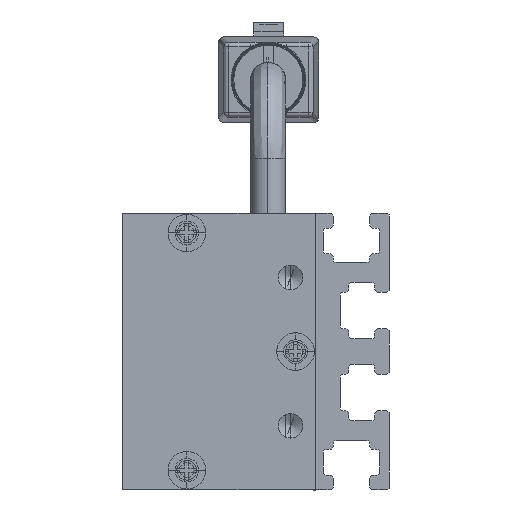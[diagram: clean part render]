
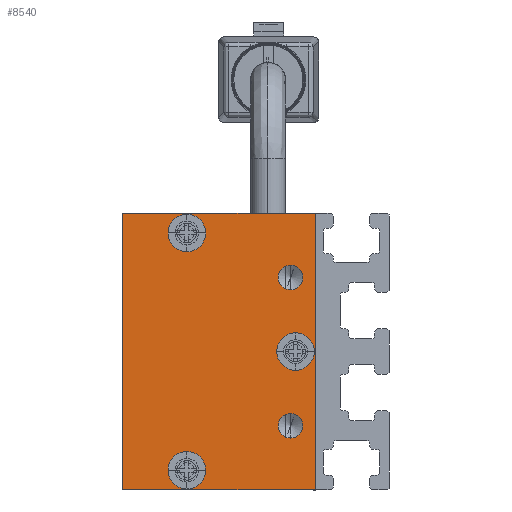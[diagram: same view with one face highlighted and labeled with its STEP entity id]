
A CAD part, left-side view. The second image highlights one B-rep face of the part: STEP entity #8540.
In plain terms, the highlighted planar face has unit normal (-1, 0, 0) as drawn and (0, 0, -1) by its records, which use the part's own axes.
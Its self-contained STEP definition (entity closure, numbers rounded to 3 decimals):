
#133 = FACE_OUTER_BOUND ( 'NONE', #5319, .T. ) ;
#634 = AXIS2_PLACEMENT_3D ( 'NONE', #1439, #4719, #6840 ) ;
#855 = EDGE_LOOP ( 'NONE', ( #13792, #3648 ) ) ;
#945 = ORIENTED_EDGE ( 'NONE', *, *, #8925, .F. ) ;
#1173 = DIRECTION ( 'NONE',  ( -1., 0., 0. ) ) ;
#1328 = DIRECTION ( 'NONE',  ( -1., 0., 0. ) ) ;
#1405 = ORIENTED_EDGE ( 'NONE', *, *, #2974, .F. ) ;
#1439 = CARTESIAN_POINT ( 'NONE',  ( -12., 13., -2.5 ) ) ;
#1611 = ORIENTED_EDGE ( 'NONE', *, *, #1929, .F. ) ;
#1779 = CARTESIAN_POINT ( 'NONE',  ( 14., 0., -2.5 ) ) ;
#1929 = EDGE_CURVE ( 'NONE', #9618, #6632, #13736, .T. ) ;
#1947 = EDGE_CURVE ( 'NONE', #6113, #10194, #3313, .T. ) ;
#1978 = AXIS2_PLACEMENT_3D ( 'NONE', #13897, #11975, #10685 ) ;
#2123 = PLANE ( 'NONE',  #3789 ) ;
#2265 = CARTESIAN_POINT ( 'NONE',  ( 14., 19.5, -2.5 ) ) ;
#2333 = VERTEX_POINT ( 'NONE', #8342 ) ;
#2382 = VERTEX_POINT ( 'NONE', #7633 ) ;
#2389 = ORIENTED_EDGE ( 'NONE', *, *, #10619, .F. ) ;
#2619 = DIRECTION ( 'NONE',  ( 0., 0., -1. ) ) ;
#2714 = VERTEX_POINT ( 'NONE', #1779 ) ;
#2974 = EDGE_CURVE ( 'NONE', #11395, #4188, #10842, .T. ) ;
#3052 = AXIS2_PLACEMENT_3D ( 'NONE', #8735, #12904, #3399 ) ;
#3287 = VECTOR ( 'NONE', #4268, 1000. ) ;
#3313 = CIRCLE ( 'NONE', #5584, 1.25 ) ;
#3341 = EDGE_CURVE ( 'NONE', #11552, #6416, #3799, .T. ) ;
#3399 = DIRECTION ( 'NONE',  ( -1., 0., 0. ) ) ;
#3648 = ORIENTED_EDGE ( 'NONE', *, *, #10765, .F. ) ;
#3773 = AXIS2_PLACEMENT_3D ( 'NONE', #4390, #12029, #13027 ) ;
#3789 = AXIS2_PLACEMENT_3D ( 'NONE', #9647, #10764, #10835 ) ;
#3799 = CIRCLE ( 'NONE', #1978, 1.9 ) ;
#3813 = CARTESIAN_POINT ( 'NONE',  ( -6.25, 2.5, -2.5 ) ) ;
#3959 = DIRECTION ( 'NONE',  ( -1., 0., 0. ) ) ;
#3960 = ORIENTED_EDGE ( 'NONE', *, *, #4849, .F. ) ;
#4130 = VECTOR ( 'NONE', #7566, 1000. ) ;
#4188 = VERTEX_POINT ( 'NONE', #12101 ) ;
#4266 = FACE_BOUND ( 'NONE', #13380, .T. ) ;
#4268 = DIRECTION ( 'NONE',  ( 0., 1., 0. ) ) ;
#4337 = FACE_BOUND ( 'NONE', #855, .T. ) ;
#4390 = CARTESIAN_POINT ( 'NONE',  ( -7.5, 2.5, -2.5 ) ) ;
#4406 = CIRCLE ( 'NONE', #5075, 1.25 ) ;
#4464 = EDGE_LOOP ( 'NONE', ( #12423, #2389 ) ) ;
#4512 = ORIENTED_EDGE ( 'NONE', *, *, #8797, .F. ) ;
#4549 = ORIENTED_EDGE ( 'NONE', *, *, #12587, .F. ) ;
#4719 = DIRECTION ( 'NONE',  ( 0., 0., -1. ) ) ;
#4799 = ORIENTED_EDGE ( 'NONE', *, *, #1947, .F. ) ;
#4849 = EDGE_CURVE ( 'NONE', #4188, #2714, #12667, .T. ) ;
#4990 = EDGE_LOOP ( 'NONE', ( #5140, #4799 ) ) ;
#5075 = AXIS2_PLACEMENT_3D ( 'NONE', #13461, #12251, #1328 ) ;
#5130 = VECTOR ( 'NONE', #11667, 1000. ) ;
#5140 = ORIENTED_EDGE ( 'NONE', *, *, #5186, .F. ) ;
#5186 = EDGE_CURVE ( 'NONE', #10194, #6113, #7506, .T. ) ;
#5235 = AXIS2_PLACEMENT_3D ( 'NONE', #13054, #12908, #11991 ) ;
#5299 = CARTESIAN_POINT ( 'NONE',  ( -14., 19.5, -2.5 ) ) ;
#5319 = EDGE_LOOP ( 'NONE', ( #7138, #3960, #1405, #945 ) ) ;
#5324 = FACE_BOUND ( 'NONE', #4990, .T. ) ;
#5409 = AXIS2_PLACEMENT_3D ( 'NONE', #10001, #2619, #5892 ) ;
#5471 = AXIS2_PLACEMENT_3D ( 'NONE', #7050, #6238, #10557 ) ;
#5531 = FACE_BOUND ( 'NONE', #4464, .T. ) ;
#5584 = AXIS2_PLACEMENT_3D ( 'NONE', #7650, #11966, #1173 ) ;
#5783 = CIRCLE ( 'NONE', #3052, 1.9 ) ;
#5860 = CARTESIAN_POINT ( 'NONE',  ( 6.25, 2.5, -2.5 ) ) ;
#5892 = DIRECTION ( 'NONE',  ( -1., 0., 0. ) ) ;
#6070 = VERTEX_POINT ( 'NONE', #13894 ) ;
#6113 = VERTEX_POINT ( 'NONE', #7720 ) ;
#6238 = DIRECTION ( 'NONE',  ( 0., 0., -1. ) ) ;
#6369 = CARTESIAN_POINT ( 'NONE',  ( 1.9, 2., -2.5 ) ) ;
#6416 = VERTEX_POINT ( 'NONE', #6369 ) ;
#6603 = CARTESIAN_POINT ( 'NONE',  ( -14., 0., -2.5 ) ) ;
#6632 = VERTEX_POINT ( 'NONE', #3813 ) ;
#6729 = CARTESIAN_POINT ( 'NONE',  ( -8.75, 2.5, -2.5 ) ) ;
#6768 = CIRCLE ( 'NONE', #634, 1.9 ) ;
#6840 = DIRECTION ( 'NONE',  ( -1., 0., 0. ) ) ;
#7050 = CARTESIAN_POINT ( 'NONE',  ( 12., 13., -2.5 ) ) ;
#7077 = DIRECTION ( 'NONE',  ( 0., 0., -1. ) ) ;
#7138 = ORIENTED_EDGE ( 'NONE', *, *, #9728, .F. ) ;
#7195 = VECTOR ( 'NONE', #10908, 1000. ) ;
#7506 = CIRCLE ( 'NONE', #5235, 1.25 ) ;
#7566 = DIRECTION ( 'NONE',  ( 1., 0., 0. ) ) ;
#7610 = EDGE_LOOP ( 'NONE', ( #7937, #4512 ) ) ;
#7633 = CARTESIAN_POINT ( 'NONE',  ( -10.1, 13., -2.5 ) ) ;
#7650 = CARTESIAN_POINT ( 'NONE',  ( 7.5, 2.5, -2.5 ) ) ;
#7720 = CARTESIAN_POINT ( 'NONE',  ( 8.75, 2.5, -2.5 ) ) ;
#7785 = VERTEX_POINT ( 'NONE', #9560 ) ;
#7937 = ORIENTED_EDGE ( 'NONE', *, *, #3341, .F. ) ;
#8318 = CIRCLE ( 'NONE', #12371, 1.9 ) ;
#8342 = CARTESIAN_POINT ( 'NONE',  ( -13.9, 13., -2.5 ) ) ;
#8540 = ADVANCED_FACE ( 'NONE', ( #4337, #5531, #13184, #5324, #4266, #133 ), #2123, .T. ) ;
#8735 = CARTESIAN_POINT ( 'NONE',  ( -12., 13., -2.5 ) ) ;
#8797 = EDGE_CURVE ( 'NONE', #6416, #11552, #8318, .T. ) ;
#8925 = EDGE_CURVE ( 'NONE', #10518, #11395, #11805, .T. ) ;
#9097 = CARTESIAN_POINT ( 'NONE',  ( -1.9, 2., -2.5 ) ) ;
#9286 = CARTESIAN_POINT ( 'NONE',  ( 0., 2., -2.5 ) ) ;
#9442 = CARTESIAN_POINT ( 'NONE',  ( -14., 19.5, -2.5 ) ) ;
#9545 = CARTESIAN_POINT ( 'NONE',  ( 14., 19.5, -2.5 ) ) ;
#9560 = CARTESIAN_POINT ( 'NONE',  ( 13.9, 13., -2.5 ) ) ;
#9618 = VERTEX_POINT ( 'NONE', #6729 ) ;
#9647 = CARTESIAN_POINT ( 'NONE',  ( 0., 0., -2.5 ) ) ;
#9704 = EDGE_CURVE ( 'NONE', #2333, #2382, #5783, .T. ) ;
#9728 = EDGE_CURVE ( 'NONE', #2714, #10518, #11835, .T. ) ;
#10001 = CARTESIAN_POINT ( 'NONE',  ( 12., 13., -2.5 ) ) ;
#10194 = VERTEX_POINT ( 'NONE', #5860 ) ;
#10518 = VERTEX_POINT ( 'NONE', #9545 ) ;
#10557 = DIRECTION ( 'NONE',  ( -1., 0., 0. ) ) ;
#10619 = EDGE_CURVE ( 'NONE', #2382, #2333, #6768, .T. ) ;
#10685 = DIRECTION ( 'NONE',  ( -1., 0., 0. ) ) ;
#10764 = DIRECTION ( 'NONE',  ( 0., 0., -1. ) ) ;
#10765 = EDGE_CURVE ( 'NONE', #7785, #6070, #11561, .T. ) ;
#10835 = DIRECTION ( 'NONE',  ( -1., 0., 0. ) ) ;
#10842 = LINE ( 'NONE', #6603, #7195 ) ;
#10908 = DIRECTION ( 'NONE',  ( 0., -1., 0. ) ) ;
#11395 = VERTEX_POINT ( 'NONE', #9442 ) ;
#11552 = VERTEX_POINT ( 'NONE', #9097 ) ;
#11561 = CIRCLE ( 'NONE', #5471, 1.9 ) ;
#11667 = DIRECTION ( 'NONE',  ( -1., 0., 0. ) ) ;
#11737 = CIRCLE ( 'NONE', #5409, 1.9 ) ;
#11805 = LINE ( 'NONE', #5299, #5130 ) ;
#11835 = LINE ( 'NONE', #2265, #3287 ) ;
#11966 = DIRECTION ( 'NONE',  ( 0., 0., -1. ) ) ;
#11975 = DIRECTION ( 'NONE',  ( 0., 0., -1. ) ) ;
#11991 = DIRECTION ( 'NONE',  ( -1., 0., 0. ) ) ;
#12029 = DIRECTION ( 'NONE',  ( 0., 0., -1. ) ) ;
#12101 = CARTESIAN_POINT ( 'NONE',  ( -14., 0., -2.5 ) ) ;
#12251 = DIRECTION ( 'NONE',  ( 0., 0., -1. ) ) ;
#12371 = AXIS2_PLACEMENT_3D ( 'NONE', #9286, #7077, #3959 ) ;
#12423 = ORIENTED_EDGE ( 'NONE', *, *, #9704, .F. ) ;
#12587 = EDGE_CURVE ( 'NONE', #6632, #9618, #4406, .T. ) ;
#12667 = LINE ( 'NONE', #12872, #4130 ) ;
#12872 = CARTESIAN_POINT ( 'NONE',  ( 14., 0., -2.5 ) ) ;
#12904 = DIRECTION ( 'NONE',  ( 0., 0., -1. ) ) ;
#12908 = DIRECTION ( 'NONE',  ( 0., 0., -1. ) ) ;
#13027 = DIRECTION ( 'NONE',  ( -1., 0., 0. ) ) ;
#13054 = CARTESIAN_POINT ( 'NONE',  ( 7.5, 2.5, -2.5 ) ) ;
#13184 = FACE_BOUND ( 'NONE', #7610, .T. ) ;
#13380 = EDGE_LOOP ( 'NONE', ( #1611, #4549 ) ) ;
#13461 = CARTESIAN_POINT ( 'NONE',  ( -7.5, 2.5, -2.5 ) ) ;
#13736 = CIRCLE ( 'NONE', #3773, 1.25 ) ;
#13792 = ORIENTED_EDGE ( 'NONE', *, *, #14017, .F. ) ;
#13894 = CARTESIAN_POINT ( 'NONE',  ( 10.1, 13., -2.5 ) ) ;
#13897 = CARTESIAN_POINT ( 'NONE',  ( 0., 2., -2.5 ) ) ;
#14017 = EDGE_CURVE ( 'NONE', #6070, #7785, #11737, .T. ) ;
